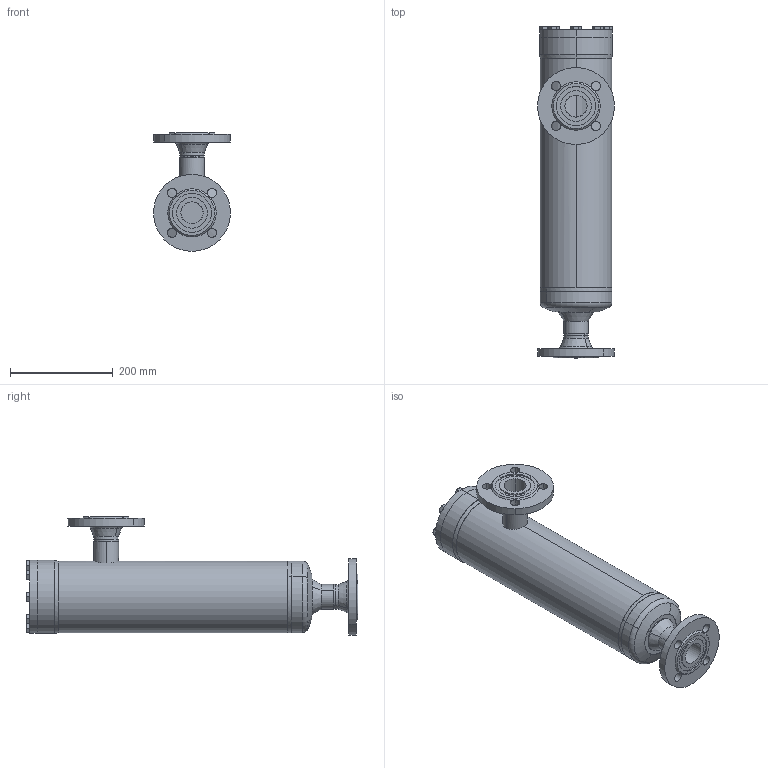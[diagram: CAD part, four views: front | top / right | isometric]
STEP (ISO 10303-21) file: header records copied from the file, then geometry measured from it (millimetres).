
FILE_DESCRIPTION (( 'STEP AP214' ), '1' );
FILE_NAME ('FT56720D14-DN40-3_DIN-FL-N_PS40.STEP', '2010-09-13T08:49:13', ( 'Eckhard Grams' ), ( 'AWP Kälte Klima Armaturen GmbH' ), 'SwSTEP 2.0', 'SolidWorks 2002296', '' );
FILE_SCHEMA (( 'AUTOMOTIVE_DESIGN' ));
Length unit declared in the file: millimetre
Products named in the file (18): FT56720D14-DN40-3_DIN-FL-N_PS40; Flansch-DIN2635-Nut_PS40_DIN-Flansch-DN040_PS40-Nut; FT56700D14-DN40-3_PS40_Standard; Geh-kpl-FT-DN40-3_Standard; Gehäuse-FT-DN20-50_PS40_40-3; FT Boden-Führungsrohr DN40_PS25_Standard; Boden-FT-DN20-80_DN 20 bis 50-4 PN 40; bead-Bo-Fü-20-50_Standard; Führungsrohr-FT-DN20-50_DN 40; bead40-Geh-Ko3_Standard; bead40-Geh-Bo1_Standard; Kopfstück-FT-DN20-50_PS40_Standard; Rohrstutzen-FT-DN20-80_DN 40; FT Deckel-Schrauben-DN20-50_PS25_Standard; Deckel56700E15-DN20-50_PS40_Standard; Sechskantschraube-DIN933_M12x 30; bead56720-40-3b_Standard; bead56720-40-3a_Standard
Assembly tree (25 placements, depth 5):
  FT56720D14-DN40-3_DIN-FL-N_PS40
    FT56700D14-DN40-3_PS40_Standard
      Geh-kpl-FT-DN40-3_Standard
        FT Boden-Führungsrohr DN40_PS25_Standard
          Führungsrohr-FT-DN20-50_DN 40
          Boden-FT-DN20-80_DN 20 bis 50-4 PN 40
          bead-Bo-Fü-20-50_Standard
        Rohrstutzen-FT-DN20-80_DN 40
        Gehäuse-FT-DN20-50_PS40_40-3
        Kopfstück-FT-DN20-50_PS40_Standard
        bead40-Geh-Bo1_Standard
        bead40-Geh-Ko3_Standard
      FT Deckel-Schrauben-DN20-50_PS25_Standard
        Deckel56700E15-DN20-50_PS40_Standard
        Sechskantschraube-DIN933_M12x 30  x8
    bead56720-40-3a_Standard
    Flansch-DIN2635-Nut_PS40_DIN-Flansch-DN040_PS40-Nut  x2
    bead56720-40-3b_Standard
Bounding box: 149.43 x 647.28 x 230.71 mm (x, y, z)
Volume: 2597643.3 mm3; surface area: 729250.7 mm2
Topology: 21 solids, 21 shells, 481 faces, 1078 edges, 642 vertices
Faces by surface type: cone 190, cylinder 145, plane 110, bspline 20, torus 12, sphere 4
Entity records: 14985 total; most frequent: CARTESIAN_POINT 7951, DIRECTION 1378, ORIENTED_EDGE 1232, EDGE_CURVE 616, AXIS2_PLACEMENT_3D 592, VERTEX_POINT 380, EDGE_LOOP 338, CIRCLE 306
